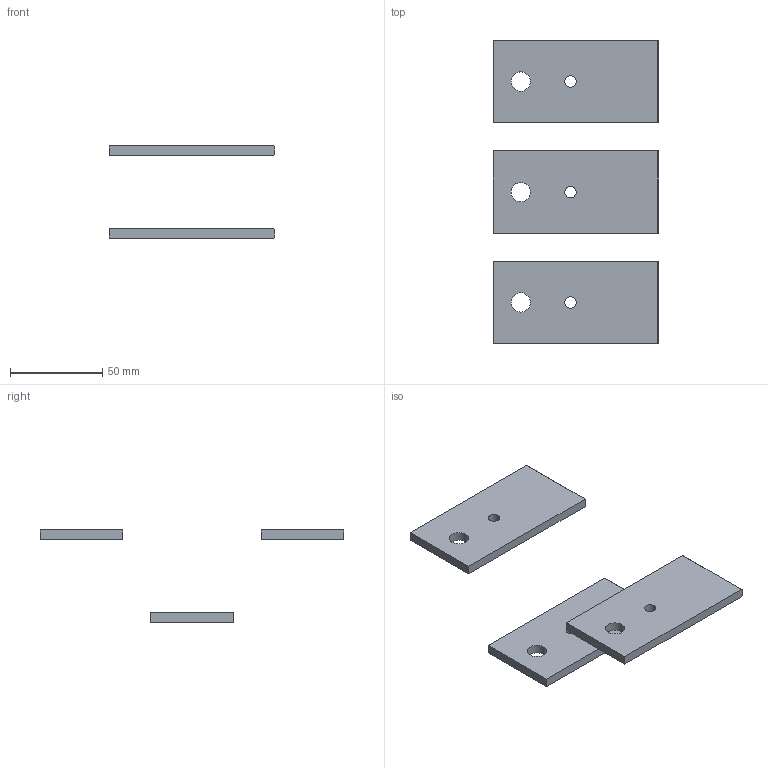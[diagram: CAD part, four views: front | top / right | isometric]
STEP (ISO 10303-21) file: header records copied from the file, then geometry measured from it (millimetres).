
FILE_DESCRIPTION(('CAx-IF Rec.Pracs.---Model Styling and Organization---1.2---2011-12-15','CAx-IF Rec.Pracs.---Geometric and Assembly Validation Properties---4.1---2014-06-16','CAx-IF Rec.Pracs.---PMI Polyline Presentation---2.0---2013-05-24'),'2;1');
FILE_NAME('R5M2WBB3P6-2.stp','2021-05-05T11:53:43+03:00',(''),(''),'STEP Interface 4.4 by CT CoreTechnologie','3D_Evolution4.4 by CT CoreTechnologie','');
FILE_SCHEMA(('AUTOMOTIVE_DESIGN { 1 0 10303 214 1 1 1 1 }'));
Length unit declared in the file: millimetre
Products named in the file (2): R5M2WBB3P6-2; RB.1291.00.00.0_-01
Assembly tree (3 placements, depth 2):
  R5M2WBB3P6-2
    RB.1291.00.00.0_-01  x3
Bounding box: 90 x 165 x 50 mm (x, y, z)
Surface area: 28355.7 mm2 (no closed solid volume)
Topology: 0 solids, 3 shells, 36 faces, 90 edges, 60 vertices
Faces by surface type: plane 24, cylinder 12
Entity records: 483 total; most frequent: DIRECTION 70, CARTESIAN_POINT 66, ORIENTED_EDGE 60, EDGE_CURVE 30, AXIS2_PLACEMENT_3D 24, VECTOR 22, LINE 22, VERTEX_POINT 20
